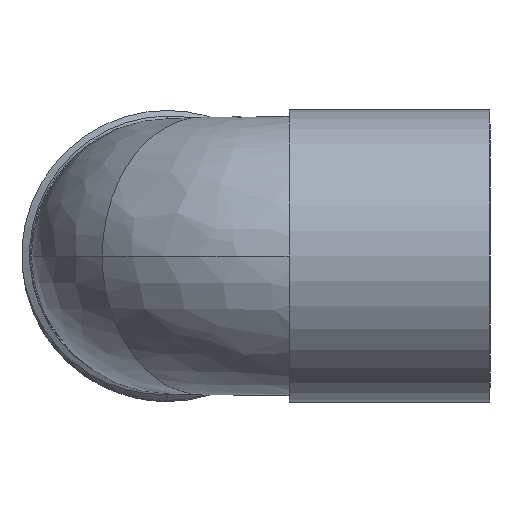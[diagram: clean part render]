
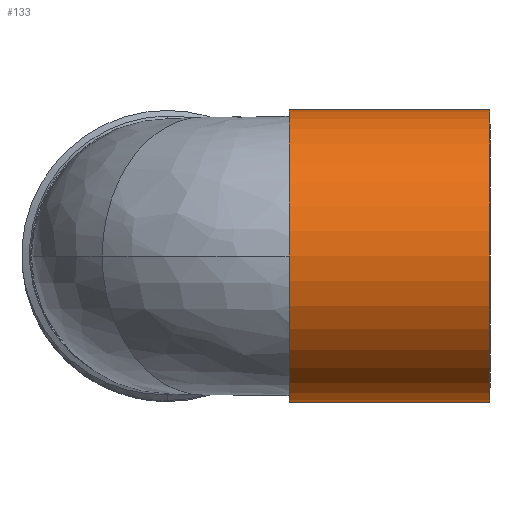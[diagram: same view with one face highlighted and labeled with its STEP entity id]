
A CAD part, left-side view. The second image highlights one B-rep face of the part: STEP entity #133.
In plain terms, the highlighted cylindrical face has radius 24 mm (diameter 48 mm), a partial arc.
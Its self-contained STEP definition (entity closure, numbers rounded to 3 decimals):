
#116 = EDGE_CURVE ( 'NONE', #643, #425, #747, .T. ) ;
#120 = ORIENTED_EDGE ( 'NONE', *, *, #642, .F. ) ;
#122 = ORIENTED_EDGE ( 'NONE', *, *, #125, .T. ) ;
#125 = EDGE_CURVE ( 'NONE', #505, #504, #656, .T. ) ;
#128 = ORIENTED_EDGE ( 'NONE', *, *, #426, .T. ) ;
#129 = ORIENTED_EDGE ( 'NONE', *, *, #116, .F. ) ;
#131 = EDGE_LOOP ( 'NONE', ( #120, #122, #128, #129 ) ) ;
#133 = ADVANCED_FACE ( 'NONE', ( #812 ), #828, .T. ) ;
#425 = VERTEX_POINT ( 'NONE', #2588 ) ;
#426 = EDGE_CURVE ( 'NONE', #504, #425, #2587, .T. ) ;
#504 = VERTEX_POINT ( 'NONE', #3015 ) ;
#505 = VERTEX_POINT ( 'NONE', #3010 ) ;
#642 = EDGE_CURVE ( 'NONE', #505, #643, #3515, .T. ) ;
#643 = VERTEX_POINT ( 'NONE', #3511 ) ;
#653 = DIRECTION ( 'NONE',  ( 0., 0., 1. ) ) ;
#654 = DIRECTION ( 'NONE',  ( 0., 1., 0. ) ) ;
#655 = AXIS2_PLACEMENT_3D ( 'NONE', #748, #654, #653 ) ;
#656 = CIRCLE ( 'NONE', #655, 24. ) ;
#697 = DIRECTION ( 'NONE',  ( 0., 0., 1. ) ) ;
#698 = DIRECTION ( 'NONE',  ( 0., 1., 0. ) ) ;
#699 = CARTESIAN_POINT ( 'NONE',  ( 0., 76.234, 0. ) ) ;
#743 = DIRECTION ( 'NONE',  ( 0., 0., 1. ) ) ;
#744 = DIRECTION ( 'NONE',  ( 0., 1., 0. ) ) ;
#745 = CARTESIAN_POINT ( 'NONE',  ( 0., -20., 0. ) ) ;
#746 = AXIS2_PLACEMENT_3D ( 'NONE', #745, #744, #743 ) ;
#747 = CIRCLE ( 'NONE', #746, 24. ) ;
#748 = CARTESIAN_POINT ( 'NONE',  ( 0., -53., 0. ) ) ;
#812 = FACE_OUTER_BOUND ( 'NONE', #131, .T. ) ;
#827 = AXIS2_PLACEMENT_3D ( 'NONE', #699, #698, #697 ) ;
#828 = CYLINDRICAL_SURFACE ( 'NONE', #827, 24. ) ;
#2584 = DIRECTION ( 'NONE',  ( 0., 1., 0. ) ) ;
#2585 = VECTOR ( 'NONE', #2584, 1000. ) ;
#2586 = CARTESIAN_POINT ( 'NONE',  ( 0., 76.234, 24. ) ) ;
#2587 = LINE ( 'NONE', #2586, #2585 ) ;
#2588 = CARTESIAN_POINT ( 'NONE',  ( 0., -20., 24. ) ) ;
#3010 = CARTESIAN_POINT ( 'NONE',  ( 0., -53., -24. ) ) ;
#3015 = CARTESIAN_POINT ( 'NONE',  ( 0., -53., 24. ) ) ;
#3511 = CARTESIAN_POINT ( 'NONE',  ( 0., -20., -24. ) ) ;
#3512 = DIRECTION ( 'NONE',  ( 0., 1., 0. ) ) ;
#3513 = VECTOR ( 'NONE', #3512, 1000. ) ;
#3514 = CARTESIAN_POINT ( 'NONE',  ( 0., 76.234, -24. ) ) ;
#3515 = LINE ( 'NONE', #3514, #3513 ) ;
